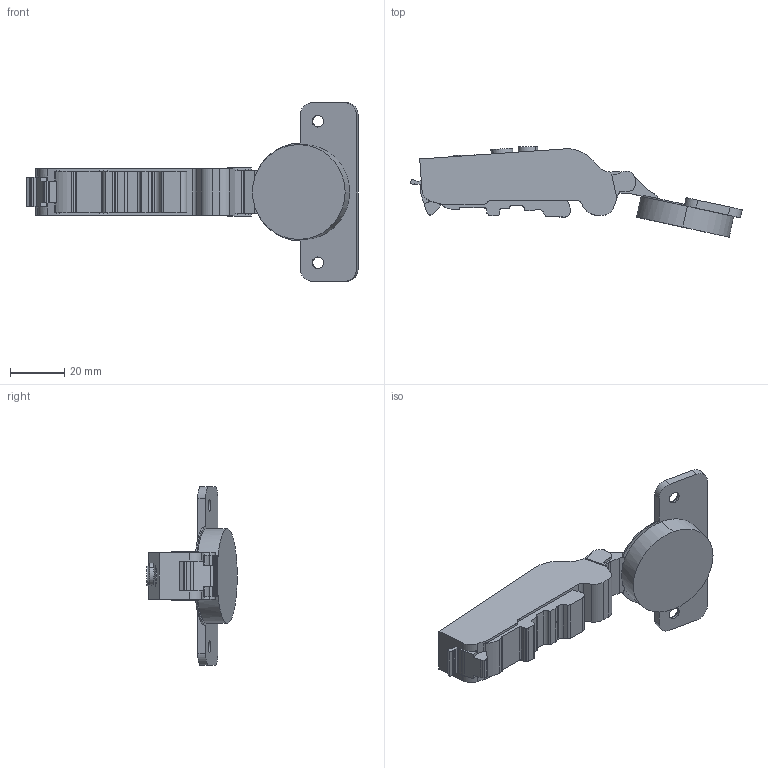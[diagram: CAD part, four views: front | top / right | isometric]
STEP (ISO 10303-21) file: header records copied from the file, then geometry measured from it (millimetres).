
FILE_DESCRIPTION (( 'STEP AP203' ), '1' );
FILE_NAME ('C81A8Q7FAB- DTC 3D open.STEP', '2024-11-29T07:57:21', ( '微软用户' ), ( '微软中国' ), 'SwSTEP 2.0', 'SolidWorks 2021', '' );
FILE_SCHEMA (( 'CONFIG_CONTROL_DESIGN' ));
Length unit declared in the file: millimetre
Products named in the file (1): C81A8Q7FAB- DTC 3D open
Bounding box: 121.86 x 33.17 x 65.6 mm (x, y, z)
Volume: 37175.1 mm3; surface area: 11833.5 mm2
Topology: 1 solids, 1 shells, 198 faces, 557 edges, 366 vertices
Faces by surface type: plane 90, cylinder 88, torus 14, cone 4, bspline 2
Entity records: 6545 total; most frequent: CARTESIAN_POINT 1205, DIRECTION 1135, ORIENTED_EDGE 1114, EDGE_CURVE 557, AXIS2_PLACEMENT_3D 404, VERTEX_POINT 366, VECTOR 327, LINE 327
